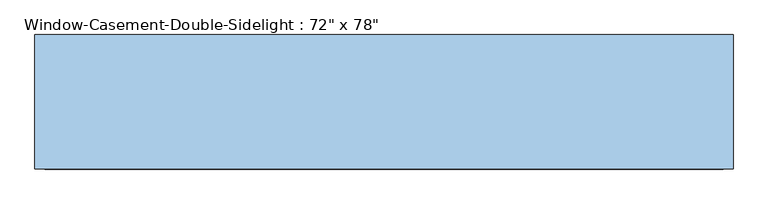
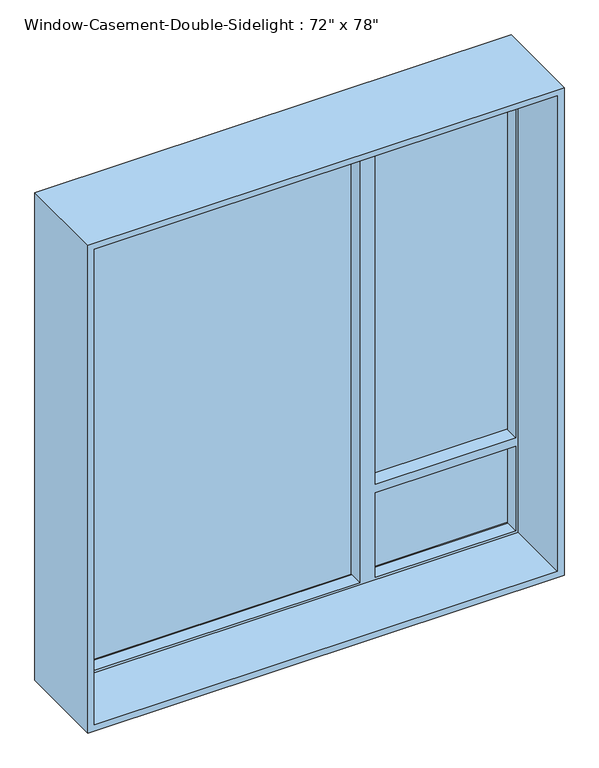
"""IFC4 building model written with IfcOpenShell, lengths in millimetres: window geometry."""

from ifc_helpers import new_model, si_unit, frame, origin, place, context, project, spatial, polyline, outline, extrude, faceted_brep, source, transform, mapped, element, save


def window_dcb26459(model_context):
    return source(origin(), model_context, "Body", "SolidModel", [
        faceted_brep([(-889.0, 134.9375, 2870.2), (-889.0, 176.2125, 2870.2), (889.0, 176.2125, 2870.2), (889.0, 134.9375, 2870.2), (330.2, 134.9375, 2870.2), (330.2, 173.0375, 2870.2), (279.4, 173.0375, 2870.2), (279.4, 134.9375, 2870.2), (-878.8796875, 84.1375, 2860.0796875), (-878.8796875, 134.9375, 2860.0796875), (279.4, 134.9375, 2860.0796875), (279.4, 84.1375, 2860.0796875), (878.8796875, 134.9375, 2860.0796875), (878.8796875, 84.1375, 2860.0796875), (340.3203125, 84.1375, 2860.0796875), (340.3203125, 134.9375, 2860.0796875), (-889.0, -176.2125, 2870.2), (-889.0, 84.1375, 2870.2), (889.0, 84.1375, 2870.2), (889.0, -176.2125, 2870.2), (-914.4, 176.2125, 2895.6), (-914.4, -176.2125, 2895.6), (914.4, -176.2125, 2895.6), (914.4, 176.2125, 2895.6), (889.0, 176.2125, 939.8), (889.0, 134.9375, 939.8), (889.0, 134.9375, 1292.8798438), (889.0, 173.0375, 1292.8798438), (889.0, 173.0375, 1328.4001563), (889.0, 134.9375, 1328.4001563), (878.8796875, 134.9375, 1328.4001563), (878.8796875, 84.1375, 1328.4001563), (878.8796875, 134.9375, 949.9203125), (878.8796875, 84.1375, 949.9203125), (878.8796875, 84.1375, 1292.8798438), (878.8796875, 134.9375, 1292.8798438), (889.0, 84.1375, 939.8), (889.0, -176.2125, 939.8), (914.4, -176.2125, 914.4), (914.4, 176.2125, 914.4), (-889.0, 176.2125, 939.8), (-889.0, 134.9375, 939.8), (279.4, 134.9375, 939.8), (279.4, 173.0375, 939.8), (330.2, 173.0375, 939.8), (330.2, 134.9375, 939.8), (340.3203125, 134.9375, 949.9203125), (340.3203125, 84.1375, 949.9203125), (-878.8796875, 134.9375, 949.9203125), (-878.8796875, 84.1375, 949.9203125), (279.4, 84.1375, 949.9203125), (279.4, 134.9375, 949.9203125), (-889.0, 84.1375, 939.8), (-889.0, -176.2125, 939.8), (-914.4, -176.2125, 914.4), (-914.4, 176.2125, 914.4), (340.3203125, 134.9375, 1328.4001563), (330.2, 134.9375, 1328.4001563), (330.2, 134.9375, 1292.8798438), (340.3203125, 134.9375, 1292.8798438), (340.3203125, 84.1375, 1328.4001563), (340.3203125, 84.1375, 1292.8798438), (330.2, 173.0375, 1328.4001563), (330.2, 173.0375, 1292.8798438)], [[[0, 1, 2, 3, 4, 5, 6, 7]], [[8, 9, 10, 11]], [[12, 13, 14, 15]], [[16, 17, 18, 19]], [[20, 21, 22, 23]], [[3, 2, 24, 25, 26, 27, 28, 29]], [[13, 12, 30, 31]], [[32, 33, 34, 35]], [[19, 18, 36, 37]], [[23, 22, 38, 39]], [[25, 24, 40, 41, 42, 43, 44, 45]], [[33, 32, 46, 47]], [[48, 49, 50, 51]], [[37, 36, 52, 53]], [[39, 38, 54, 55]], [[1, 0, 41, 40]], [[12, 15, 56, 57, 4, 3, 29, 30]], [[46, 32, 35, 26, 25, 45, 58, 59]], [[41, 0, 7, 10, 9, 48, 51, 42]], [[9, 8, 49, 48]], [[17, 52, 36, 18], [13, 31, 60, 14], [33, 47, 61, 34], [49, 8, 11, 50]], [[17, 16, 53, 52]], [[22, 21, 54, 38], [16, 19, 37, 53]], [[21, 20, 55, 54]], [[20, 23, 39, 55], [2, 1, 40, 24]], [[43, 6, 5, 62, 28, 27, 63, 44]], [[6, 43, 42, 51, 50, 11, 10, 7]], [[15, 14, 60, 56]], [[47, 46, 59, 61]], [[5, 4, 57, 62]], [[45, 44, 63, 58]], [[63, 27, 26, 35, 34, 61, 59, 58]], [[28, 62, 57, 56, 60, 31, 30, 29]]]),
        extrude(outline(polyline([(889.0, 147.6375), (889.0, 141.2875), (330.2, 141.2875), (330.2, 147.6375), (889.0, 147.6375)])), frame((0.0, 0.0, 1328.4001563), z_axis=(0.0, 0.0, 1.0), x_axis=(1.0, 0.0, 0.0)), (0.0, 0.0, 1.0), 1541.7998438),
        extrude(outline(polyline([(889.0, 160.3375), (889.0, 153.9875), (330.2, 153.9875), (330.2, 160.3375), (889.0, 160.3375)])), frame((0.0, 0.0, 1328.4001563), z_axis=(0.0, 0.0, 1.0), x_axis=(1.0, 0.0, 0.0)), (0.0, 0.0, 1.0), 1541.7998438),
        extrude(outline(polyline([(279.4, 160.3375), (279.4, 153.9875), (-889.0, 153.9875), (-889.0, 160.3375), (279.4, 160.3375)])), frame((0.0, 0.0, 949.9203125), z_axis=(0.0, 0.0, 1.0), x_axis=(1.0, 0.0, 0.0)), (0.0, 0.0, 1.0), 1920.2796875),
        extrude(outline(polyline([(279.4, 147.6375), (279.4, 141.2875), (-889.0, 141.2875), (-889.0, 147.6375), (279.4, 147.6375)])), frame((0.0, 0.0, 949.9203125), z_axis=(0.0, 0.0, 1.0), x_axis=(1.0, 0.0, 0.0)), (0.0, 0.0, 1.0), 1920.2796875),
        extrude(outline(polyline([(889.0, 160.3375), (330.2, 160.3375), (330.2, 173.0375), (889.0, 173.0375), (889.0, 160.3375)])), frame((0.0, 0.0, 949.9203125), z_axis=(0.0, 0.0, 1.0), x_axis=(1.0, 0.0, 0.0)), (0.0, 0.0, 1.0), 342.9595312),
        extrude(outline(polyline([(889.0, 147.6375), (889.0, 141.2875), (330.2, 141.2875), (330.2, 147.6375), (889.0, 147.6375)])), frame((0.0, 0.0, 949.9203125), z_axis=(0.0, 0.0, 1.0), x_axis=(1.0, 0.0, 0.0)), (0.0, 0.0, 1.0), 342.9595312),
    ])


if __name__ == "__main__":
    model = new_model("IFC4")
    model_context = context("Model", 3, world=origin())
    ifc_project = project(units=[si_unit("LENGTHUNIT", "METRE", prefix="MILLI")], contexts=[model_context])
    site = spatial("IfcSite", under=ifc_project)
    building = spatial("IfcBuilding", under=site)
    placement = place(None, origin())
    window_shape = window_dcb26459(model_context)
    element("IfcWindow", 1, ObjectType="Window-Casement-Double-Sidelight : 72\" x 78\"", at=placement, inside=building, context=model_context, shape_type="MappedRepresentation", body=[
        mapped(window_shape, transform((0.0, 0.0, 0.0), x_axis=(1.0, 0.0, 0.0), y_axis=(0.0, 1.0, 0.0), z_axis=(0.0, 0.0, 1.0))),
    ])
    save(model, "model.ifc")
